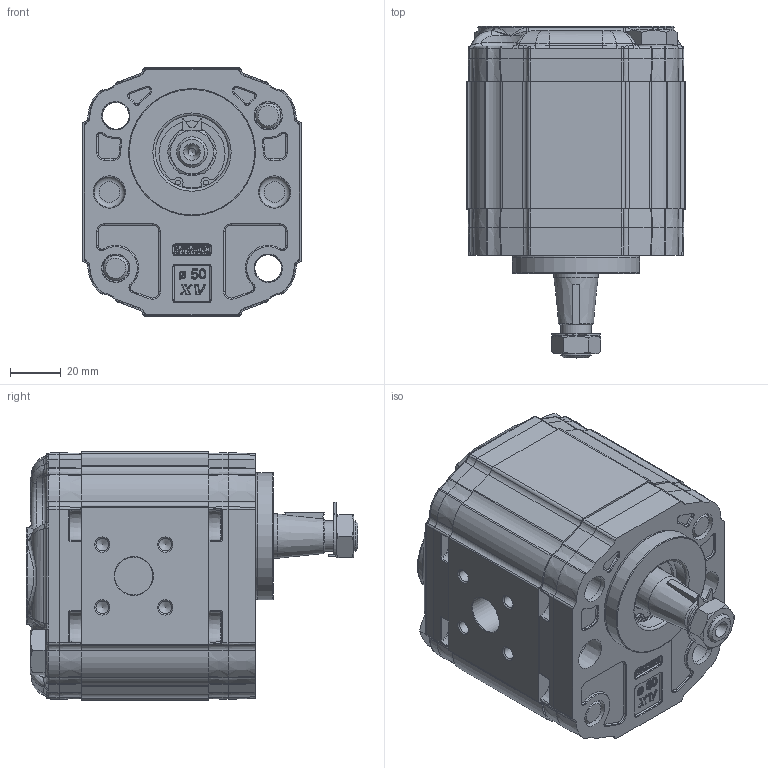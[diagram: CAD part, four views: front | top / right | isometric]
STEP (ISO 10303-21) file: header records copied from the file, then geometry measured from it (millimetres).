
FILE_DESCRIPTION(/* description */ ('Unknown'),/* implementation_level */ '2;1');
FILE_NAME(/* name */ 'X2M4313FRRE',/* time_stamp */ '2026-06-03T18:35:26+02:00',/* author */ ('Unknown'),/* organization */ ('Unknown'),/* preprocessor_version */ 'ST-DEVELOPER v16.7',/* originating_system */ 'Solid Edge',/* authorisation */ 'Unknown');
FILE_SCHEMA (('AUTOMOTIVE_DESIGN {1 0 10303 214 3 1 1}'));
Products named in the file (5): X2M4313FRRE; X2M13; 2F; X2RRH50; XM213-E
Assembly tree (4 placements, depth 2):
  X2M4313FRRE
    X2M13
    2F
    X2RRH50
    XM213-E
Bounding box: 86 x 130.65 x 98 mm (x, y, z)
Volume: 633843.5 mm3; surface area: 100983.4 mm2
Topology: 4 solids, 8 shells, 1921 faces, 4732 edges, 2863 vertices
Faces by surface type: cylinder 535, plane 465, bspline 442, cone 274, torus 145, sphere 60
Full cylindrical faces by diameter (mm): 2 x2, 5 x8, 10 x6, 10.5 x8, 11 x2, 11.445 x1, 12 x2, 12.5 x1, 15 x2, 16 x2, 17.42 x1, 18 x1, 20.595 x1, 23.332 x1, 25 x1, 25.834 x1, 28.5 x1, 28.56 x1, 28.57 x1, 28.8 x1, 30.5 x1, 50 x1
Entity records: 87331 total; most frequent: CARTESIAN_POINT 32663, ORIENTED_EDGE 8942, DIRECTION 7726, EDGE_CURVE 4471, AXIS2_PLACEMENT_3D 3140, VERTEX_POINT 2798, FACE_BOUND 2181, EDGE_LOOP 2171
